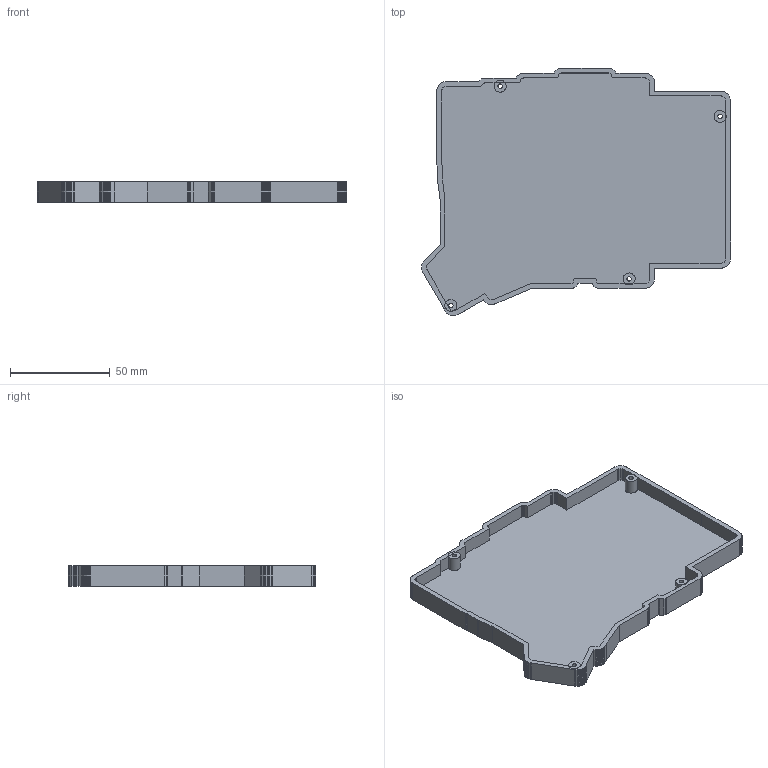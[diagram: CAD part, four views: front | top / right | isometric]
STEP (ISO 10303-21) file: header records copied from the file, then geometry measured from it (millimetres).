
FILE_DESCRIPTION(('Open CASCADE Model'),'2;1');
FILE_NAME('Open CASCADE Shape Model','1979-01-01T00:00:00',('Author'),( 'Open CASCADE'),'Open CASCADE STEP processor 8.0','Open CASCADE 8.0' ,'Unknown');
FILE_SCHEMA(('AUTOMOTIVE_DESIGN { 1 0 10303 214 1 1 1 1 }'));
Length unit declared in the file: millimetre
Products named in the file (1): Open CASCADE STEP translator 8.0 3
Bounding box: 154.57 x 123.84 x 10.1 mm (x, y, z)
Volume: 55453.6 mm3; surface area: 40143.9 mm2
Topology: 1 solids, 1 shells, 364 faces, 1081 edges, 720 vertices
Faces by surface type: plane 353, cylinder 11
Full cylindrical faces by diameter (mm): 2.2 x4
Entity records: 26019 total; most frequent: CARTESIAN_POINT 4344, DIRECTION 3984, LINE 3168, VECTOR 3168, ORIENTED_EDGE 2162, PCURVE 2162, DEFINITIONAL_REPRESENTATION 2162, EDGE_CURVE 1081
